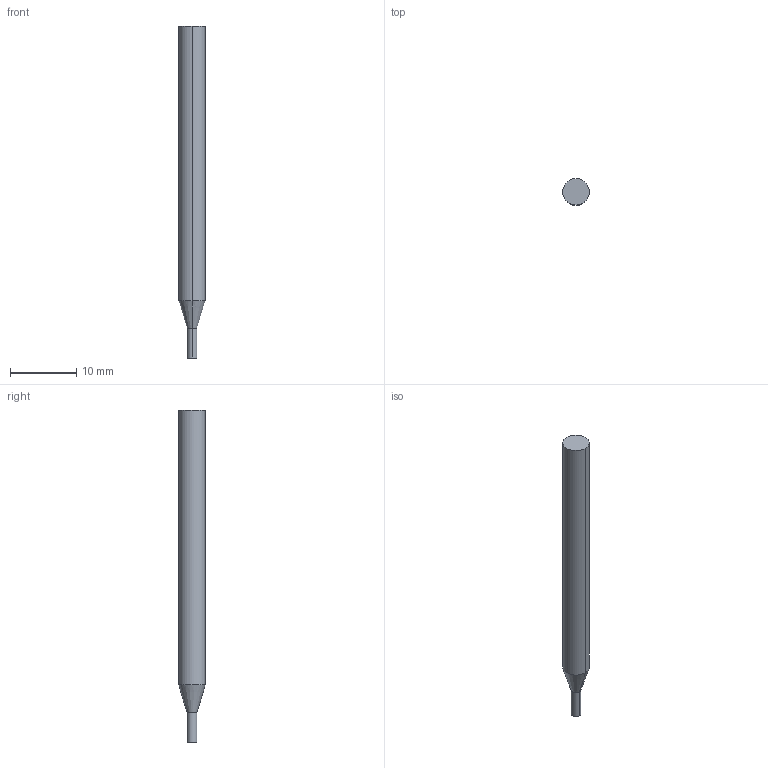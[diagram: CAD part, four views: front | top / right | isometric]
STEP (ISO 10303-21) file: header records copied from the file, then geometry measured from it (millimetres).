
FILE_DESCRIPTION((' '),'2;1');
FILE_NAME( '3MVRM0150AH.stp', '2026-01-21T19:06:02', (' '), ('--- Datakit www.datakit.com---'), ' Datakit CrossCadWare V2025.4 Sep 19 2025', 'Mastercam 2027', ' ');
FILE_SCHEMA(('AUTOMOTIVE_DESIGN { 1 0 10303 214 1 1 1 1 }'));
Length unit declared in the file: inch
Products named in the file (1): 3MVRM0150AH
Bounding box: 4 x 4 x 50 mm (x, y, z)
Volume: 554.5 mm3; surface area: 593 mm2
Topology: 1 solids, 1 shells, 8 faces, 14 edges, 8 vertices
Faces by surface type: cylinder 4, plane 2, cone 2
Entity records: 264 total; most frequent: DIRECTION 48, CARTESIAN_POINT 35, ORIENTED_EDGE 28, AXIS2_PLACEMENT_3D 21, EDGE_CURVE 14, VERTEX_POINT 8, CIRCLE 8, EDGE_LOOP 8
